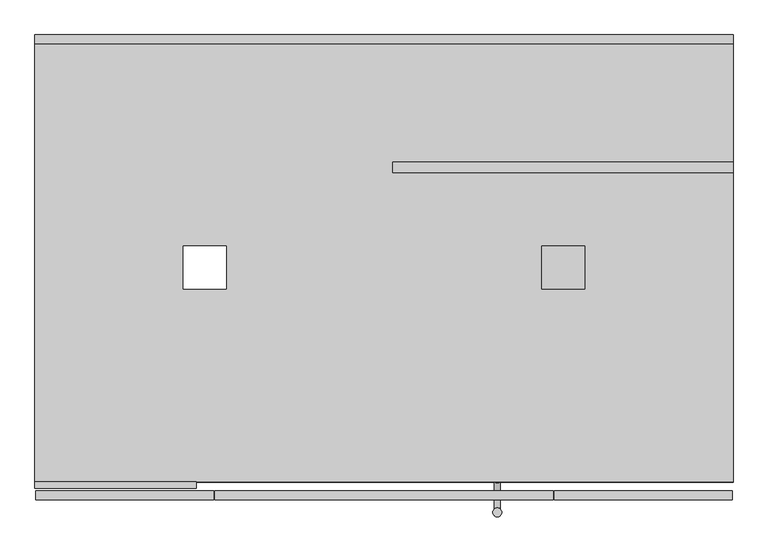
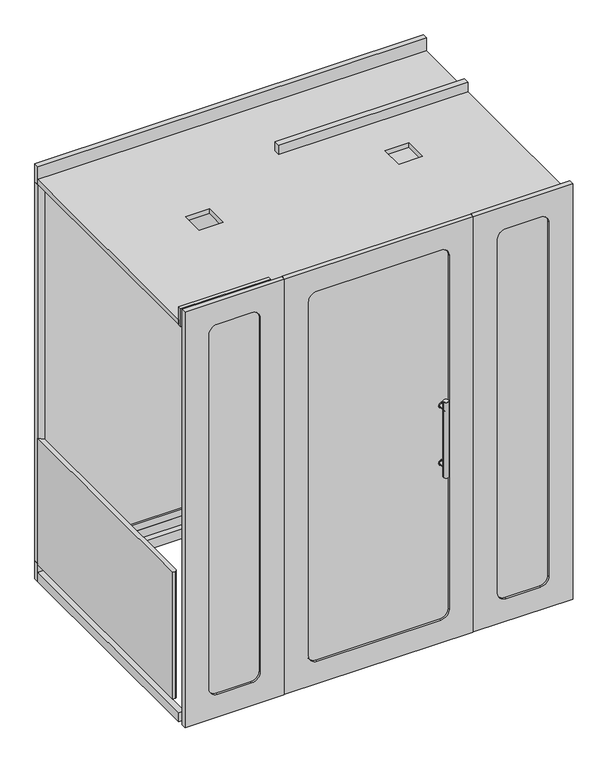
"""IFC4 building model written with IfcOpenShell, lengths in millimetres: furniture geometry, Mobiliário_Mobiliário de Escritório_Cabine Acústica 02 Pessoas - CT 02 PM FV_Marelli : Mobiliário_Mobiliário de Escritório_Cabine Acústica 02 Pessoas - CT 02 PM FV_Marelli."""

from ifc_helpers import new_model, si_unit, point, frame, frame_2d, origin, place, context, project, spatial, polyline, circle_curve, trimmed, segment, composite_curve, outline, extrude, faceted_brep, source, transform, mapped, element, save
from ifc_brep_helpers import plane_surface, cylinder_surface, advanced_brep


def furniture_7776b8a0(model_context):
    return source(origin(), model_context, "Body", "SolidModel", [
        extrude(outline(composite_curve([segment(polyline([(1925.0, 920.0), (1925.0, 380.0)]), True, "CONTINUOUS"), segment(trimmed(circle_curve(frame_2d((1920.0, 380.0)), 5.0), [point((1925.0, 380.0))], [point((1920.0, 375.0))], False, "CARTESIAN"), True, "CONTINUOUS"), segment(polyline([(1920.0, 375.0), (1865.0, 375.0)]), True, "CONTINUOUS"), segment(trimmed(circle_curve(frame_2d((1865.0, 380.0)), 5.0), [point((1865.0, 375.0))], [point((1860.0, 380.0))], False, "CARTESIAN"), True, "CONTINUOUS"), segment(polyline([(1860.0, 380.0), (1860.0, 920.0)]), True, "CONTINUOUS"), segment(trimmed(circle_curve(frame_2d((1865.0, 920.0)), 5.0), [point((1860.0, 920.0))], [point((1865.0, 925.0))], False, "CARTESIAN"), True, "CONTINUOUS"), segment(polyline([(1865.0, 925.0), (1920.0, 925.0)]), True, "CONTINUOUS"), segment(trimmed(circle_curve(frame_2d((1920.0, 920.0)), 5.0), [point((1920.0, 925.0))], [point((1925.0, 920.0))], False, "CARTESIAN"), True, "CONTINUOUS")], self_intersect=False), holes=[composite_curve([segment(trimmed(circle_curve(frame_2d((1892.5, 725.0)), 3.9), [point((1896.4, 725.0))], [point((1888.6, 725.0))], True, "CARTESIAN"), True, "CONTINUOUS"), segment(polyline([(1888.6, 725.0), (1888.6, 575.0)]), True, "CONTINUOUS"), segment(trimmed(circle_curve(frame_2d((1892.5, 575.0)), 3.9), [point((1888.6, 575.0))], [point((1896.4, 575.0))], True, "CARTESIAN"), True, "CONTINUOUS"), segment(polyline([(1896.4, 575.0), (1896.4, 725.0)]), True, "CONTINUOUS")], self_intersect=False), composite_curve([segment(trimmed(circle_curve(frame_2d((1912.5, 715.0)), 3.9), [point((1916.4, 715.0))], [point((1908.6, 715.0))], True, "CARTESIAN"), True, "CONTINUOUS"), segment(polyline([(1908.6, 715.0), (1908.6, 585.0)]), True, "CONTINUOUS"), segment(trimmed(circle_curve(frame_2d((1912.5, 585.0)), 3.9), [point((1908.6, 585.0))], [point((1916.4, 585.0))], True, "CARTESIAN"), True, "CONTINUOUS"), segment(polyline([(1916.4, 585.0), (1916.4, 715.0)]), True, "CONTINUOUS")], self_intersect=False), composite_curve([segment(polyline([(1868.6, 715.0), (1868.6, 585.0)]), True, "CONTINUOUS"), segment(trimmed(circle_curve(frame_2d((1872.5, 585.0)), 3.9), [point((1868.6, 585.0))], [point((1876.4, 585.0))], True, "CARTESIAN"), True, "CONTINUOUS"), segment(polyline([(1876.4, 585.0), (1876.4, 715.0)]), True, "CONTINUOUS"), segment(trimmed(circle_curve(frame_2d((1872.5, 715.0)), 3.9), [point((1876.4, 715.0))], [point((1868.6, 715.0))], True, "CARTESIAN"), True, "CONTINUOUS")], self_intersect=False), composite_curve([segment(polyline([(1896.4, 755.0), (1896.4, 905.0)]), True, "CONTINUOUS"), segment(trimmed(circle_curve(frame_2d((1892.5, 905.0)), 3.9), [point((1896.4, 905.0))], [point((1888.6, 905.0))], True, "CARTESIAN"), True, "CONTINUOUS"), segment(polyline([(1888.6, 905.0), (1888.6, 755.0)]), True, "CONTINUOUS"), segment(trimmed(circle_curve(frame_2d((1892.5, 755.0)), 3.9), [point((1888.6, 755.0))], [point((1896.4, 755.0))], True, "CARTESIAN"), True, "CONTINUOUS")], self_intersect=False), composite_curve([segment(polyline([(1916.4, 765.0), (1916.4, 895.0)]), True, "CONTINUOUS"), segment(trimmed(circle_curve(frame_2d((1912.5, 895.0)), 3.9), [point((1916.4, 895.0))], [point((1908.6, 895.0))], True, "CARTESIAN"), True, "CONTINUOUS"), segment(polyline([(1908.6, 895.0), (1908.6, 765.0)]), True, "CONTINUOUS"), segment(trimmed(circle_curve(frame_2d((1912.5, 765.0)), 3.9), [point((1908.6, 765.0))], [point((1916.4, 765.0))], True, "CARTESIAN"), True, "CONTINUOUS")], self_intersect=False), composite_curve([segment(trimmed(circle_curve(frame_2d((1872.5, 765.0)), 3.9), [point((1868.6, 765.0))], [point((1876.4, 765.0))], True, "CARTESIAN"), True, "CONTINUOUS"), segment(polyline([(1876.4, 765.0), (1876.4, 895.0)]), True, "CONTINUOUS"), segment(trimmed(circle_curve(frame_2d((1872.5, 895.0)), 3.9), [point((1876.4, 895.0))], [point((1868.6, 895.0))], True, "CARTESIAN"), True, "CONTINUOUS"), segment(polyline([(1868.6, 895.0), (1868.6, 765.0)]), True, "CONTINUOUS")], self_intersect=False), composite_curve([segment(trimmed(circle_curve(frame_2d((1892.5, 545.0)), 3.9), [point((1896.4, 545.0))], [point((1888.6, 545.0))], True, "CARTESIAN"), True, "CONTINUOUS"), segment(polyline([(1888.6, 545.0), (1888.6, 395.0)]), True, "CONTINUOUS"), segment(trimmed(circle_curve(frame_2d((1892.5, 395.0)), 3.9), [point((1888.6, 395.0))], [point((1896.4, 395.0))], True, "CARTESIAN"), True, "CONTINUOUS"), segment(polyline([(1896.4, 395.0), (1896.4, 545.0)]), True, "CONTINUOUS")], self_intersect=False), composite_curve([segment(trimmed(circle_curve(frame_2d((1912.5, 535.0)), 3.9), [point((1916.4, 535.0))], [point((1908.6, 535.0))], True, "CARTESIAN"), True, "CONTINUOUS"), segment(polyline([(1908.6, 535.0), (1908.6, 405.0)]), True, "CONTINUOUS"), segment(trimmed(circle_curve(frame_2d((1912.5, 405.0)), 3.9), [point((1908.6, 405.0))], [point((1916.4, 405.0))], True, "CARTESIAN"), True, "CONTINUOUS"), segment(polyline([(1916.4, 405.0), (1916.4, 535.0)]), True, "CONTINUOUS")], self_intersect=False), composite_curve([segment(polyline([(1868.6, 535.0), (1868.6, 405.0)]), True, "CONTINUOUS"), segment(trimmed(circle_curve(frame_2d((1872.5, 405.0)), 3.9), [point((1868.6, 405.0))], [point((1876.4, 405.0))], True, "CARTESIAN"), True, "CONTINUOUS"), segment(polyline([(1876.4, 405.0), (1876.4, 535.0)]), True, "CONTINUOUS"), segment(trimmed(circle_curve(frame_2d((1872.5, 535.0)), 3.9), [point((1876.4, 535.0))], [point((1868.6, 535.0))], True, "CARTESIAN"), True, "CONTINUOUS")], self_intersect=False)]), frame((0.0, 0.0, 113.5), z_axis=(0.0, 0.0, 1.0), x_axis=(1.0, 0.0, 0.0)), (0.0, 0.0, 1.0), 1.9953278),
        extrude(outline(composite_curve([segment(polyline([(25.0, 102.0), (25.0, 1275.0), (45.5304331, 1254.4695669)]), True, "CONTINUOUS"), segment(trimmed(circle_curve(frame_2d((43.1599032, 1251.4457873)), 3.84222), [point((45.5304331, 1254.4695669))], [point((47.0, 1251.3180705))], False, "CARTESIAN"), True, "CONTINUOUS"), segment(polyline([(47.0, 1251.3180705), (47.0, 113.0)]), True, "CONTINUOUS"), segment(trimmed(circle_curve(frame_2d((36.0, 113.0)), 11.0), [point((47.0, 113.0))], [point((36.0, 102.0))], False, "CARTESIAN"), True, "CONTINUOUS"), segment(polyline([(36.0, 102.0), (25.0, 102.0)]), True, "CONTINUOUS")], self_intersect=False)), frame((0.0, 0.0, 113.5), z_axis=(0.0, 0.0, 1.0), x_axis=(1.0, 0.0, 0.0)), (0.0, 0.0, 1.0), 672.0),
        extrude(outline(composite_curve([segment(polyline([(1252.9978767, 2109.5), (124.0, 2109.5)]), True, "CONTINUOUS"), segment(trimmed(circle_curve(frame_2d((124.0, 2131.5)), 22.0), [point((124.0, 2109.5))], [point((102.0, 2131.5))], False, "CARTESIAN"), True, "CONTINUOUS"), segment(polyline([(102.0, 2131.5), (1252.9978767, 2131.5), (1252.9978767, 2109.5)]), True, "CONTINUOUS")], self_intersect=False)), frame((1317.666, 0.0, 0.0), z_axis=(1.0, 0.0, 0.0), x_axis=(0.0, 1.0, 0.0)), (0.0, 0.0, 1.0), 635.333),
        extrude(outline(composite_curve([segment(polyline([(1443.0368913, 710.0), (1556.9631087, 710.0)]), True, "CONTINUOUS"), segment(trimmed(circle_curve(frame_2d((1556.9631087, 706.9631087)), 3.0368913), [point((1556.9631087, 710.0))], [point((1560.0, 706.9631087))], False, "CARTESIAN"), True, "CONTINUOUS"), segment(polyline([(1560.0, 706.9631087), (1560.0, 593.0368913)]), True, "CONTINUOUS"), segment(trimmed(circle_curve(frame_2d((1556.9631087, 593.0368913)), 3.0368913), [point((1560.0, 593.0368913))], [point((1556.9631087, 590.0))], False, "CARTESIAN"), True, "CONTINUOUS"), segment(polyline([(1556.9631087, 590.0), (1443.0368913, 590.0)]), True, "CONTINUOUS"), segment(trimmed(circle_curve(frame_2d((1443.0368913, 593.0368913)), 3.0368913), [point((1443.0368913, 590.0))], [point((1440.0, 593.0368913))], False, "CARTESIAN"), True, "CONTINUOUS"), segment(polyline([(1440.0, 593.0368913), (1440.0, 706.9631087)]), True, "CONTINUOUS"), segment(trimmed(circle_curve(frame_2d((1443.0368913, 706.9631087)), 3.0368913), [point((1440.0, 706.9631087))], [point((1443.0368913, 710.0))], False, "CARTESIAN"), True, "CONTINUOUS")], self_intersect=False), holes=[composite_curve([segment(trimmed(circle_curve(frame_2d((1500.0, 700.0)), 4.0), [point((1504.0, 700.0))], [point((1496.0, 700.0))], True, "CARTESIAN"), True, "CONTINUOUS"), segment(polyline([(1496.0, 700.0), (1496.0, 600.0)]), True, "CONTINUOUS"), segment(trimmed(circle_curve(frame_2d((1500.0, 600.0)), 4.0), [point((1496.0, 600.0))], [point((1504.0, 600.0))], True, "CARTESIAN"), True, "CONTINUOUS"), segment(polyline([(1504.0, 600.0), (1504.0, 700.0)]), True, "CONTINUOUS")], self_intersect=False), composite_curve([segment(trimmed(circle_curve(frame_2d((1516.0, 690.0)), 4.0), [point((1520.0, 690.0))], [point((1512.0, 690.0))], True, "CARTESIAN"), True, "CONTINUOUS"), segment(polyline([(1512.0, 690.0), (1512.0, 610.0)]), True, "CONTINUOUS"), segment(trimmed(circle_curve(frame_2d((1516.0, 610.0)), 4.0), [point((1512.0, 610.0))], [point((1520.0, 610.0))], True, "CARTESIAN"), True, "CONTINUOUS"), segment(polyline([(1520.0, 610.0), (1520.0, 690.0)]), True, "CONTINUOUS")], self_intersect=False), composite_curve([segment(trimmed(circle_curve(frame_2d((1532.0, 680.0)), 4.0), [point((1536.0, 680.0))], [point((1528.0, 680.0))], True, "CARTESIAN"), True, "CONTINUOUS"), segment(polyline([(1528.0, 680.0), (1528.0, 620.0)]), True, "CONTINUOUS"), segment(trimmed(circle_curve(frame_2d((1532.0, 620.0)), 4.0), [point((1528.0, 620.0))], [point((1536.0, 620.0))], True, "CARTESIAN"), True, "CONTINUOUS"), segment(polyline([(1536.0, 620.0), (1536.0, 680.0)]), True, "CONTINUOUS")], self_intersect=False), composite_curve([segment(trimmed(circle_curve(frame_2d((1548.0, 670.0)), 4.0), [point((1552.0, 670.0))], [point((1544.0, 670.0))], True, "CARTESIAN"), True, "CONTINUOUS"), segment(polyline([(1544.0, 670.0), (1544.0, 630.0)]), True, "CONTINUOUS"), segment(trimmed(circle_curve(frame_2d((1548.0, 630.0)), 4.0), [point((1544.0, 630.0))], [point((1552.0, 630.0))], True, "CARTESIAN"), True, "CONTINUOUS"), segment(polyline([(1552.0, 630.0), (1552.0, 670.0)]), True, "CONTINUOUS")], self_intersect=False), composite_curve([segment(polyline([(1480.0, 690.0), (1480.0, 610.0)]), True, "CONTINUOUS"), segment(trimmed(circle_curve(frame_2d((1484.0, 610.0)), 4.0), [point((1480.0, 610.0))], [point((1488.0, 610.0))], True, "CARTESIAN"), True, "CONTINUOUS"), segment(polyline([(1488.0, 610.0), (1488.0, 690.0)]), True, "CONTINUOUS"), segment(trimmed(circle_curve(frame_2d((1484.0, 690.0)), 4.0), [point((1488.0, 690.0))], [point((1480.0, 690.0))], True, "CARTESIAN"), True, "CONTINUOUS")], self_intersect=False), composite_curve([segment(polyline([(1464.0, 680.0), (1464.0, 620.0)]), True, "CONTINUOUS"), segment(trimmed(circle_curve(frame_2d((1468.0, 620.0)), 4.0), [point((1464.0, 620.0))], [point((1472.0, 620.0))], True, "CARTESIAN"), True, "CONTINUOUS"), segment(polyline([(1472.0, 620.0), (1472.0, 680.0)]), True, "CONTINUOUS"), segment(trimmed(circle_curve(frame_2d((1468.0, 680.0)), 4.0), [point((1472.0, 680.0))], [point((1464.0, 680.0))], True, "CARTESIAN"), True, "CONTINUOUS")], self_intersect=False), composite_curve([segment(polyline([(1448.0, 670.0), (1448.0, 630.0)]), True, "CONTINUOUS"), segment(trimmed(circle_curve(frame_2d((1452.0, 630.0)), 4.0), [point((1448.0, 630.0))], [point((1456.0, 630.0))], True, "CARTESIAN"), True, "CONTINUOUS"), segment(polyline([(1456.0, 630.0), (1456.0, 670.0)]), True, "CONTINUOUS"), segment(trimmed(circle_curve(frame_2d((1452.0, 670.0)), 4.0), [point((1456.0, 670.0))], [point((1448.0, 670.0))], True, "CARTESIAN"), True, "CONTINUOUS")], self_intersect=False)]), frame((0.0, 0.0, 2107.4845827), z_axis=(0.0, 0.0, 1.0), x_axis=(1.0, 0.0, 0.0)), (0.0, 0.0, 1.0), 2.0154173),
        extrude(outline(polyline([(25.0, 50.0), (475.0, 50.0), (475.0, 32.0), (25.0, 32.0), (25.0, 50.0)])), frame((0.0, 0.0, 2128.5), z_axis=(0.0, 0.0, 1.0), x_axis=(1.0, 0.0, 0.0)), (0.0, 0.0, 1.0), 96.0),
        extrude(outline(polyline([(1975.0, 1275.0), (1975.0, 50.0), (25.0, 50.0), (25.0, 1275.0), (1975.0, 1275.0)]), holes=[polyline([(560.0, 710.0), (440.0, 710.0), (440.0, 590.0), (560.0, 590.0), (560.0, 710.0)]), polyline([(1440.0, 710.0), (1440.0, 590.0), (1560.0, 590.0), (1560.0, 710.0), (1440.0, 710.0)])]), frame((0.0, 0.0, 2131.5), z_axis=(0.0, 0.0, 1.0), x_axis=(1.0, 0.0, 0.0)), (0.0, 0.0, 1.0), 25.0),
        extrude(outline(polyline([(25.0, 1275.0), (1975.0, 1275.0), (1975.0, 50.0), (25.0, 50.0), (25.0, 1275.0)]), holes=[polyline([(55.0, 80.0), (985.0, 80.0), (985.0, 1245.0), (55.0, 1245.0), (55.0, 80.0)]), polyline([(1945.0, 1245.0), (1015.0, 1245.0), (1015.0, 80.0), (1945.0, 80.0), (1945.0, 1245.0)])]), frame((0.0, 0.0, 24.5), z_axis=(0.0, 0.0, 1.0), x_axis=(1.0, 0.0, 0.0)), (0.0, 0.0, 1.0), 50.0),
        extrude(outline(composite_curve([segment(polyline([(1252.9978767, 2109.5), (124.0, 2109.5)]), True, "CONTINUOUS"), segment(trimmed(circle_curve(frame_2d((124.0, 2131.5)), 22.0), [point((124.0, 2109.5))], [point((102.0, 2131.5))], False, "CARTESIAN"), True, "CONTINUOUS"), segment(polyline([(102.0, 2131.5), (1252.9978767, 2131.5), (1252.9978767, 2109.5)]), True, "CONTINUOUS")], self_intersect=False)), frame((682.333, 0.0, 0.0), z_axis=(1.0, 0.0, 0.0), x_axis=(0.0, 1.0, 0.0)), (0.0, 0.0, 1.0), 635.333),
        advanced_brep(
        [(1060.0, 926.5, 113.5), (1060.0, 926.5, 114.5), (1060.0, 847.5, 114.5), (1060.0, 847.5, 113.5), (940.0, 926.5, 113.5), (940.0, 847.5, 113.5), (940.0, 847.5, 114.5), (940.0, 926.5, 114.5), (987.5, 909.0, 117.9660049), (1012.5, 909.0, 117.9660049), (1012.5, 865.0, 117.9660049), (987.5, 865.0, 117.9660049), (1012.5, 909.0, 114.5), (987.5, 909.0, 114.5), (987.5, 865.0, 114.5), (1012.5, 865.0, 114.5)],
        [
            (0, 1),
            (1, 2, circle_curve(frame((1060.0, 887.0, -39.025), z_axis=(1.0, 0.0, 0.0), x_axis=(0.0, 1.0, 0.0)), 158.525)),
            (2, 3),
            (3, 0),
            (4, 5),
            (5, 6),
            (6, 7, circle_curve(frame((940.0, 887.0, -39.025), z_axis=(-1.0, 0.0, 0.0), x_axis=(0.0, 1.0, 0.0)), 158.525)),
            (7, 4),
            (0, 4),
            (7, 1),
            (6, 2),
            (8, 9),
            (9, 10, circle_curve(frame((1012.5, 887.0, -39.025), z_axis=(1.0, 0.0, 0.0), x_axis=(0.0, 1.0, 0.0)), 158.525)),
            (10, 11),
            (11, 8, circle_curve(frame((987.5, 887.0, -39.025), z_axis=(-1.0, 0.0, 0.0), x_axis=(0.0, 1.0, 0.0)), 158.525)),
            (5, 3),
            (12, 13),
            (13, 14),
            (14, 15),
            (15, 12),
            (12, 9),
            (8, 13),
            (11, 14),
            (10, 15),
        ],
        [
            plane_surface(frame((1060.0, 926.5, 113.5), z_axis=(1.0, 0.0, 0.0), x_axis=(0.0, 0.0, 1.0))),
            plane_surface(frame((940.0, 926.5, 113.5), z_axis=(-1.0, 0.0, 0.0), x_axis=(0.0, 0.0, -1.0))),
            plane_surface(frame((1060.0, 926.5, 113.5), z_axis=(0.0, 1.0, 0.0), x_axis=(-1.0, 0.0, 0.0))),
            cylinder_surface(frame((940.0, 887.0, -39.025), z_axis=(1.0, 0.0, 0.0), x_axis=(0.0, 1.0, 0.0)), 158.525),
            plane_surface(frame((1060.0, 847.5, 114.5), z_axis=(0.0, -1.0, 0.0), x_axis=(-1.0, 0.0, 0.0))),
            plane_surface(frame((1060.0, 847.5, 113.5), z_axis=(0.0, 0.0, -1.0), x_axis=(-1.0, 0.0, 0.0))),
            plane_surface(frame((987.5, 909.0, 114.5), z_axis=(0.0, 0.0, 1.0), x_axis=(1.0, 0.0, 0.0))),
            plane_surface(frame((1012.5, 909.0, 515.4705653), z_axis=(0.0, -1.0, 0.0), x_axis=(0.0, 0.0, -1.0))),
            plane_surface(frame((987.5, 909.0, 515.4705653), z_axis=(1.0, 0.0, 0.0), x_axis=(0.0, 0.0, -1.0))),
            plane_surface(frame((987.5, 865.0, 515.4705653), z_axis=(0.0, 1.0, 0.0), x_axis=(0.0, 0.0, -1.0))),
            plane_surface(frame((1012.5, 865.0, 515.4705653), z_axis=(-1.0, 0.0, 0.0), x_axis=(0.0, 0.0, -1.0))),
        ],
        [
            (0, [[1, 2, 3, 4]]),
            (1, [[5, 6, 7, 8]]),
            (2, [[-1, 9, -8, 10]]),
            (3, [[-2, -10, -7, 11], [12, 13, 14, 15]]),
            (4, [[-3, -11, -6, 16]]),
            (5, [[-4, -16, -5, -9]]),
            (6, [[17, 18, 19, 20]]),
            (7, [[-17, 21, -12, 22]]),
            (8, [[-18, -22, -15, 23]]),
            (9, [[-19, -23, -14, 24]]),
            (10, [[-20, -24, -13, -21]]),
        ],
    ),
        extrude(outline(polyline([(1012.5, 909.0), (1012.5, 865.0), (987.5, 865.0), (987.5, 909.0), (1012.5, 909.0)]), holes=[composite_curve([segment(polyline([(1008.3402427, 896.6597573), (1001.4623946, 903.5376054)]), True, "CONTINUOUS"), segment(trimmed(circle_curve(frame_2d((1000.0, 902.1779629)), 1.9968039), [point((1001.4623946, 903.5376054))], [point((998.5376054, 903.5376054))], True, "CARTESIAN"), True, "CONTINUOUS"), segment(polyline([(998.5376054, 903.5376054), (991.6597573, 896.6597573)]), True, "CONTINUOUS"), segment(trimmed(circle_curve(frame_2d((992.9968039, 895.1766753)), 1.9968039), [point((991.6597573, 896.6597573))], [point((991.0, 895.1766753))], True, "CARTESIAN"), True, "CONTINUOUS"), segment(polyline([(991.0, 895.1766753), (991.0, 878.8233247)]), True, "CONTINUOUS"), segment(trimmed(circle_curve(frame_2d((992.9968039, 878.8233247)), 1.9968039), [point((991.0, 878.8233247))], [point((991.6597573, 877.3402427))], True, "CARTESIAN"), True, "CONTINUOUS"), segment(polyline([(991.6597573, 877.3402427), (998.5376054, 870.4623946)]), True, "CONTINUOUS"), segment(trimmed(circle_curve(frame_2d((1000.0, 871.8220371)), 1.9968039), [point((998.5376054, 870.4623946))], [point((1001.4623946, 870.4623946))], True, "CARTESIAN"), True, "CONTINUOUS"), segment(polyline([(1001.4623946, 870.4623946), (1008.3402427, 877.3402427)]), True, "CONTINUOUS"), segment(trimmed(circle_curve(frame_2d((1007.0031961, 878.8233247)), 1.9968039), [point((1008.3402427, 877.3402427))], [point((1009.0, 878.8233247))], True, "CARTESIAN"), True, "CONTINUOUS"), segment(polyline([(1009.0, 878.8233247), (1009.0, 895.1766753)]), True, "CONTINUOUS"), segment(trimmed(circle_curve(frame_2d((1007.0031961, 895.1766753)), 1.9968039), [point((1009.0, 895.1766753))], [point((1008.3402427, 896.6597573))], True, "CARTESIAN"), True, "CONTINUOUS")], self_intersect=False)]), frame((0.0, 0.0, 114.5), z_axis=(0.0, 0.0, 1.0), x_axis=(1.0, 0.0, 0.0)), (0.0, 0.0, 1.0), 5.5),
        extrude(outline(composite_curve([segment(polyline([(1975.0, 102.0), (1964.0, 102.0)]), True, "CONTINUOUS"), segment(trimmed(circle_curve(frame_2d((1964.0, 113.0)), 11.0), [point((1964.0, 102.0))], [point((1953.0, 113.0))], False, "CARTESIAN"), True, "CONTINUOUS"), segment(polyline([(1953.0, 113.0), (1953.0, 1249.6361409), (1953.0, 1251.3180705)]), True, "CONTINUOUS"), segment(trimmed(circle_curve(frame_2d((1956.8400968, 1251.4457873)), 3.84222), [point((1953.0, 1251.3180705))], [point((1954.4695669, 1254.4695669))], False, "CARTESIAN"), True, "CONTINUOUS"), segment(polyline([(1954.4695669, 1254.4695669), (1975.0, 1275.0), (1975.0, 102.0)]), True, "CONTINUOUS")], self_intersect=False)), frame((0.0, 0.0, 1459.7), z_axis=(0.0, 0.0, 1.0), x_axis=(1.0, 0.0, 0.0)), (0.0, 0.0, 1.0), 671.8),
        extrude(outline(polyline([(1025.0, 915.0), (1025.0, 945.0), (1975.0, 945.0), (1975.0, 915.0), (1025.0, 915.0)])), frame((0.0, 0.0, 2156.5), z_axis=(0.0, 0.0, 1.0), x_axis=(1.0, 0.0, 0.0)), (0.0, 0.0, 1.0), 50.0),
        extrude(outline(polyline([(2224.5, 1472.5), (2224.5, 527.5), (24.5, 527.5), (24.5, 1472.5), (2224.5, 1472.5)]), holes=[composite_curve([segment(polyline([(187.0, 647.5), (2062.0, 647.5)]), True, "CONTINUOUS"), segment(trimmed(circle_curve(frame_2d((2062.0, 690.0)), 42.5), [point((2062.0, 647.5))], [point((2104.5, 690.0))], True, "CARTESIAN"), True, "CONTINUOUS"), segment(polyline([(2104.5, 690.0), (2104.5, 1310.0)]), True, "CONTINUOUS"), segment(trimmed(circle_curve(frame_2d((2062.0, 1310.0)), 42.5), [point((2104.5, 1310.0))], [point((2062.0, 1352.5))], True, "CARTESIAN"), True, "CONTINUOUS"), segment(polyline([(2062.0, 1352.5), (187.0, 1352.5)]), True, "CONTINUOUS"), segment(trimmed(circle_curve(frame_2d((187.0, 1310.0)), 42.5), [point((187.0, 1352.5))], [point((144.5, 1310.0))], True, "CARTESIAN"), True, "CONTINUOUS"), segment(polyline([(144.5, 1310.0), (144.5, 690.0)]), True, "CONTINUOUS"), segment(trimmed(circle_curve(frame_2d((187.0, 690.0)), 42.5), [point((144.5, 690.0))], [point((187.0, 647.5))], True, "CARTESIAN"), True, "CONTINUOUS")], self_intersect=False)]), frame((0.0, 0.0, 0.0), z_axis=(0.0, 1.0, 0.0), x_axis=(0.0, 0.0, 1.0)), (0.0, 0.0, 1.0), 25.0),
        extrude(outline(composite_curve([segment(polyline([(2062.0, 647.5), (187.0, 647.5)]), True, "CONTINUOUS"), segment(trimmed(circle_curve(frame_2d((187.0, 690.0)), 42.5), [point((187.0, 647.5))], [point((144.5, 690.0))], False, "CARTESIAN"), True, "CONTINUOUS"), segment(polyline([(144.5, 690.0), (144.5, 1310.0)]), True, "CONTINUOUS"), segment(trimmed(circle_curve(frame_2d((187.0, 1310.0)), 42.5), [point((144.5, 1310.0))], [point((187.0, 1352.5))], False, "CARTESIAN"), True, "CONTINUOUS"), segment(polyline([(187.0, 1352.5), (2062.0, 1352.5)]), True, "CONTINUOUS"), segment(trimmed(circle_curve(frame_2d((2062.0, 1310.0)), 42.5), [point((2062.0, 1352.5))], [point((2104.5, 1310.0))], False, "CARTESIAN"), True, "CONTINUOUS"), segment(polyline([(2104.5, 1310.0), (2104.5, 690.0)]), True, "CONTINUOUS"), segment(trimmed(circle_curve(frame_2d((2062.0, 690.0)), 42.5), [point((2104.5, 690.0))], [point((2062.0, 647.5))], False, "CARTESIAN"), True, "CONTINUOUS")], self_intersect=False)), frame((0.0, 9.5, 0.0), z_axis=(0.0, 1.0, 0.0), x_axis=(0.0, 0.0, 1.0)), (0.0, 0.0, 1.0), 6.0),
        extrude(outline(composite_curve([segment(trimmed(circle_curve(frame_2d((1316.5, -34.7)), 12.5), [point((1304.0, -34.7))], [point((1329.0, -34.7))], False, "CARTESIAN"), True, "CONTINUOUS"), segment(trimmed(circle_curve(frame_2d((1316.5, -34.7)), 12.5), [point((1329.0, -34.7))], [point((1304.0, -34.7))], False, "CARTESIAN"), True, "CONTINUOUS")], self_intersect=False)), frame((0.0, 0.0, 924.5), z_axis=(0.0, 0.0, 1.0), x_axis=(1.0, 0.0, 0.0)), (0.0, 0.0, 1.0), 400.0),
        extrude(outline(composite_curve([segment(trimmed(circle_curve(frame_2d((1316.5, 59.7)), 12.5), [point((1304.0, 59.7))], [point((1329.0, 59.7))], False, "CARTESIAN"), True, "CONTINUOUS"), segment(trimmed(circle_curve(frame_2d((1316.5, 59.7)), 12.5), [point((1329.0, 59.7))], [point((1304.0, 59.7))], False, "CARTESIAN"), True, "CONTINUOUS")], self_intersect=False)), frame((0.0, 0.0, 924.5), z_axis=(0.0, 0.0, 1.0), x_axis=(1.0, 0.0, 0.0)), (0.0, 0.0, 1.0), 400.0),
        extrude(outline(composite_curve([segment(trimmed(circle_curve(frame_2d((1276.5, 1316.5)), 8.0), [point((1276.5, 1308.5))], [point((1276.5, 1324.5))], False, "CARTESIAN"), True, "CONTINUOUS"), segment(trimmed(circle_curve(frame_2d((1276.5, 1316.5)), 8.0), [point((1276.5, 1324.5))], [point((1276.5, 1308.5))], False, "CARTESIAN"), True, "CONTINUOUS")], self_intersect=False)), frame((0.0, -34.7, 0.0), z_axis=(0.0, 1.0, 0.0), x_axis=(0.0, 0.0, 1.0)), (0.0, 0.0, 1.0), 41.173743),
        extrude(outline(composite_curve([segment(trimmed(circle_curve(frame_2d((972.5, 1316.5)), 8.0), [point((972.5, 1308.5))], [point((972.5, 1324.5))], False, "CARTESIAN"), True, "CONTINUOUS"), segment(trimmed(circle_curve(frame_2d((972.5, 1316.5)), 8.0), [point((972.5, 1324.5))], [point((972.5, 1308.5))], False, "CARTESIAN"), True, "CONTINUOUS")], self_intersect=False)), frame((0.0, -34.7, 0.0), z_axis=(0.0, 1.0, 0.0), x_axis=(0.0, 0.0, 1.0)), (0.0, 0.0, 1.0), 41.173743),
        extrude(outline(composite_curve([segment(trimmed(circle_curve(frame_2d((1276.5, 1316.5)), 12.5), [point((1276.5, 1304.0))], [point((1276.5, 1329.0))], False, "CARTESIAN"), True, "CONTINUOUS"), segment(trimmed(circle_curve(frame_2d((1276.5, 1316.5)), 12.5), [point((1276.5, 1329.0))], [point((1276.5, 1304.0))], False, "CARTESIAN"), True, "CONTINUOUS")], self_intersect=False)), frame((0.0, 6.473743, 0.0), z_axis=(0.0, 1.0, 0.0), x_axis=(0.0, 0.0, 1.0)), (0.0, 0.0, 1.0), 3.026257),
        extrude(outline(composite_curve([segment(trimmed(circle_curve(frame_2d((972.5, 1316.5)), 12.5), [point((972.5, 1304.0))], [point((972.5, 1329.0))], False, "CARTESIAN"), True, "CONTINUOUS"), segment(trimmed(circle_curve(frame_2d((972.5, 1316.5)), 12.5), [point((972.5, 1329.0))], [point((972.5, 1304.0))], False, "CARTESIAN"), True, "CONTINUOUS")], self_intersect=False)), frame((0.0, 6.473743, 0.0), z_axis=(0.0, 1.0, 0.0), x_axis=(0.0, 0.0, 1.0)), (0.0, 0.0, 1.0), 3.026257),
        extrude(outline(composite_curve([segment(trimmed(circle_curve(frame_2d((1276.5, 1316.5)), 8.0), [point((1276.5, 1308.5))], [point((1276.5, 1324.5))], False, "CARTESIAN"), True, "CONTINUOUS"), segment(trimmed(circle_curve(frame_2d((1276.5, 1316.5)), 8.0), [point((1276.5, 1324.5))], [point((1276.5, 1308.5))], False, "CARTESIAN"), True, "CONTINUOUS")], self_intersect=False)), frame((0.0, 18.526257, 0.0), z_axis=(0.0, 1.0, 0.0), x_axis=(0.0, 0.0, 1.0)), (0.0, 0.0, 1.0), 41.173743),
        extrude(outline(composite_curve([segment(trimmed(circle_curve(frame_2d((972.5, 1316.5)), 8.0), [point((972.5, 1308.5))], [point((972.5, 1324.5))], False, "CARTESIAN"), True, "CONTINUOUS"), segment(trimmed(circle_curve(frame_2d((972.5, 1316.5)), 8.0), [point((972.5, 1324.5))], [point((972.5, 1308.5))], False, "CARTESIAN"), True, "CONTINUOUS")], self_intersect=False)), frame((0.0, 18.526257, 0.0), z_axis=(0.0, 1.0, 0.0), x_axis=(0.0, 0.0, 1.0)), (0.0, 0.0, 1.0), 41.173743),
        extrude(outline(composite_curve([segment(trimmed(circle_curve(frame_2d((1276.5, 1316.5)), 12.5), [point((1276.5, 1304.0))], [point((1276.5, 1329.0))], False, "CARTESIAN"), True, "CONTINUOUS"), segment(trimmed(circle_curve(frame_2d((1276.5, 1316.5)), 12.5), [point((1276.5, 1329.0))], [point((1276.5, 1304.0))], False, "CARTESIAN"), True, "CONTINUOUS")], self_intersect=False)), frame((0.0, 15.5, 0.0), z_axis=(0.0, 1.0, 0.0), x_axis=(0.0, 0.0, 1.0)), (0.0, 0.0, 1.0), 3.026257),
        extrude(outline(composite_curve([segment(trimmed(circle_curve(frame_2d((972.5, 1316.5)), 12.5), [point((972.5, 1304.0))], [point((972.5, 1329.0))], False, "CARTESIAN"), True, "CONTINUOUS"), segment(trimmed(circle_curve(frame_2d((972.5, 1316.5)), 12.5), [point((972.5, 1329.0))], [point((972.5, 1304.0))], False, "CARTESIAN"), True, "CONTINUOUS")], self_intersect=False)), frame((0.0, 15.5, 0.0), z_axis=(0.0, 1.0, 0.0), x_axis=(0.0, 0.0, 1.0)), (0.0, 0.0, 1.0), 3.026257),
        extrude(outline(polyline([(2224.5, 525.0), (2224.5, 27.5), (24.5, 27.5), (24.5, 525.0), (2224.5, 525.0)]), holes=[composite_curve([segment(polyline([(187.0, 147.5), (2062.0, 147.5)]), True, "CONTINUOUS"), segment(trimmed(circle_curve(frame_2d((2062.0, 190.0)), 42.5), [point((2062.0, 147.5))], [point((2104.5, 190.0))], True, "CARTESIAN"), True, "CONTINUOUS"), segment(polyline([(2104.5, 190.0), (2104.5, 362.5)]), True, "CONTINUOUS"), segment(trimmed(circle_curve(frame_2d((2062.0, 362.5)), 42.5), [point((2104.5, 362.5))], [point((2062.0, 405.0))], True, "CARTESIAN"), True, "CONTINUOUS"), segment(polyline([(2062.0, 405.0), (187.0, 405.0)]), True, "CONTINUOUS"), segment(trimmed(circle_curve(frame_2d((187.0, 362.5)), 42.5), [point((187.0, 405.0))], [point((144.5, 362.5))], True, "CARTESIAN"), True, "CONTINUOUS"), segment(polyline([(144.5, 362.5), (144.5, 190.0)]), True, "CONTINUOUS"), segment(trimmed(circle_curve(frame_2d((187.0, 190.0)), 42.5), [point((144.5, 190.0))], [point((187.0, 147.5))], True, "CARTESIAN"), True, "CONTINUOUS")], self_intersect=False)]), frame((0.0, 0.0, 0.0), z_axis=(0.0, 1.0, 0.0), x_axis=(0.0, 0.0, 1.0)), (0.0, 0.0, 1.0), 25.0),
        extrude(outline(composite_curve([segment(polyline([(2062.0, 147.5), (187.0, 147.5)]), True, "CONTINUOUS"), segment(trimmed(circle_curve(frame_2d((187.0, 190.0)), 42.5), [point((187.0, 147.5))], [point((144.5, 190.0))], False, "CARTESIAN"), True, "CONTINUOUS"), segment(polyline([(144.5, 190.0), (144.5, 362.5)]), True, "CONTINUOUS"), segment(trimmed(circle_curve(frame_2d((187.0, 362.5)), 42.5), [point((144.5, 362.5))], [point((187.0, 405.0))], False, "CARTESIAN"), True, "CONTINUOUS"), segment(polyline([(187.0, 405.0), (2062.0, 405.0)]), True, "CONTINUOUS"), segment(trimmed(circle_curve(frame_2d((2062.0, 362.5)), 42.5), [point((2062.0, 405.0))], [point((2104.5, 362.5))], False, "CARTESIAN"), True, "CONTINUOUS"), segment(polyline([(2104.5, 362.5), (2104.5, 190.0)]), True, "CONTINUOUS"), segment(trimmed(circle_curve(frame_2d((2062.0, 190.0)), 42.5), [point((2104.5, 190.0))], [point((2062.0, 147.5))], False, "CARTESIAN"), True, "CONTINUOUS")], self_intersect=False)), frame((0.0, 9.5, 0.0), z_axis=(0.0, 1.0, 0.0), x_axis=(0.0, 0.0, 1.0)), (0.0, 0.0, 1.0), 6.0),
        extrude(outline(polyline([(2224.5, 1475.0), (24.5, 1475.0), (24.5, 1972.5), (2224.5, 1972.5), (2224.5, 1475.0)]), holes=[composite_curve([segment(trimmed(circle_curve(frame_2d((187.0, 1810.0)), 42.5), [point((187.0, 1852.5))], [point((144.5, 1810.0))], True, "CARTESIAN"), True, "CONTINUOUS"), segment(polyline([(144.5, 1810.0), (144.5, 1637.5)]), True, "CONTINUOUS"), segment(trimmed(circle_curve(frame_2d((187.0, 1637.5)), 42.5), [point((144.5, 1637.5))], [point((187.0, 1595.0))], True, "CARTESIAN"), True, "CONTINUOUS"), segment(polyline([(187.0, 1595.0), (2062.0, 1595.0)]), True, "CONTINUOUS"), segment(trimmed(circle_curve(frame_2d((2062.0, 1637.5)), 42.5), [point((2062.0, 1595.0))], [point((2104.5, 1637.5))], True, "CARTESIAN"), True, "CONTINUOUS"), segment(polyline([(2104.5, 1637.5), (2104.5, 1810.0)]), True, "CONTINUOUS"), segment(trimmed(circle_curve(frame_2d((2062.0, 1810.0)), 42.5), [point((2104.5, 1810.0))], [point((2062.0, 1852.5))], True, "CARTESIAN"), True, "CONTINUOUS"), segment(polyline([(2062.0, 1852.5), (187.0, 1852.5)]), True, "CONTINUOUS")], self_intersect=False)]), frame((0.0, 0.0, 0.0), z_axis=(0.0, 1.0, 0.0), x_axis=(0.0, 0.0, 1.0)), (0.0, 0.0, 1.0), 25.0),
        extrude(outline(composite_curve([segment(trimmed(circle_curve(frame_2d((2062.0, 1810.0)), 42.5), [point((2062.0, 1852.5))], [point((2104.5, 1810.0))], False, "CARTESIAN"), True, "CONTINUOUS"), segment(polyline([(2104.5, 1810.0), (2104.5, 1637.5)]), True, "CONTINUOUS"), segment(trimmed(circle_curve(frame_2d((2062.0, 1637.5)), 42.5), [point((2104.5, 1637.5))], [point((2062.0, 1595.0))], False, "CARTESIAN"), True, "CONTINUOUS"), segment(polyline([(2062.0, 1595.0), (187.0, 1595.0)]), True, "CONTINUOUS"), segment(trimmed(circle_curve(frame_2d((187.0, 1637.5)), 42.5), [point((187.0, 1595.0))], [point((144.5, 1637.5))], False, "CARTESIAN"), True, "CONTINUOUS"), segment(polyline([(144.5, 1637.5), (144.5, 1810.0)]), True, "CONTINUOUS"), segment(trimmed(circle_curve(frame_2d((187.0, 1810.0)), 42.5), [point((144.5, 1810.0))], [point((187.0, 1852.5))], False, "CARTESIAN"), True, "CONTINUOUS"), segment(polyline([(187.0, 1852.5), (2062.0, 1852.5)]), True, "CONTINUOUS")], self_intersect=False)), frame((0.0, 9.5, 0.0), z_axis=(0.0, 1.0, 0.0), x_axis=(0.0, 0.0, 1.0)), (0.0, 0.0, 1.0), 6.0),
        extrude(outline(polyline([(25.0, 1300.0), (1975.0, 1300.0), (1975.0, 1275.0), (25.0, 1275.0), (25.0, 1300.0)])), frame((0.0, 0.0, 24.5), z_axis=(0.0, 0.0, 1.0), x_axis=(1.0, 0.0, 0.0)), (0.0, 0.0, 1.0), 96.0),
        extrude(outline(polyline([(25.0, 1300.0), (1975.0, 1300.0), (1975.0, 1275.0), (25.0, 1275.0), (25.0, 1300.0)])), frame((0.0, 0.0, 2128.5), z_axis=(0.0, 0.0, 1.0), x_axis=(1.0, 0.0, 0.0)), (0.0, 0.0, 1.0), 96.0),
        faceted_brep([(61.3, 1284.5, 2092.2), (61.3, 1275.0, 2092.2), (61.3, 1275.0, 156.8), (61.3, 1284.5, 156.8), (53.8, 1290.5, 2099.7), (53.8, 1284.5, 2099.7), (53.8, 1284.5, 149.3), (53.8, 1290.5, 149.3), (61.3, 1300.0, 2092.2), (61.3, 1290.5, 2092.2), (61.3, 1290.5, 156.8), (61.3, 1300.0, 156.8), (25.0, 1275.0, 2128.5), (25.0, 1300.0, 2128.5), (25.0, 1300.0, 120.5), (25.0, 1275.0, 120.5), (1938.7, 1275.0, 156.8), (1938.7, 1284.5, 156.8), (1946.2, 1284.5, 149.3), (1946.2, 1290.5, 149.3), (1938.7, 1290.5, 156.8), (1938.7, 1300.0, 156.8), (1975.0, 1300.0, 120.5), (1975.0, 1275.0, 120.5), (1938.7, 1275.0, 2092.2), (1938.7, 1284.5, 2092.2), (1946.2, 1284.5, 2099.7), (1946.2, 1290.5, 2099.7), (1938.7, 1290.5, 2092.2), (1938.7, 1300.0, 2092.2), (1975.0, 1300.0, 2128.5), (1975.0, 1275.0, 2128.5)], [[[0, 1, 2, 3]], [[4, 5, 6, 7]], [[8, 9, 10, 11]], [[12, 13, 14, 15]], [[3, 2, 16, 17]], [[7, 6, 18, 19]], [[11, 10, 20, 21]], [[15, 14, 22, 23]], [[17, 16, 24, 25]], [[19, 18, 26, 27]], [[21, 20, 28, 29]], [[23, 22, 30, 31]], [[15, 23, 31, 12], [1, 24, 16, 2]], [[25, 24, 1, 0]], [[5, 26, 18, 6], [3, 17, 25, 0]], [[27, 26, 5, 4]], [[7, 19, 27, 4], [9, 28, 20, 10]], [[29, 28, 9, 8]], [[13, 30, 22, 14], [11, 21, 29, 8]], [[31, 30, 13, 12]]]),
        extrude(outline(polyline([(1018.15, 1290.5), (1010.65, 1290.5), (1010.65, 1284.5), (1018.15, 1284.5), (1018.15, 1275.0), (981.85, 1275.0), (981.85, 1284.5), (989.35, 1284.5), (989.35, 1290.5), (981.85, 1290.5), (981.85, 1300.0), (1018.15, 1300.0), (1018.15, 1290.5)])), frame((0.0, 0.0, 156.8), z_axis=(0.0, 0.0, 1.0), x_axis=(1.0, 0.0, 0.0)), (0.0, 0.0, 1.0), 1935.4),
        extrude(outline(polyline([(989.35, 1284.5), (53.8, 1284.5), (53.8, 1290.5), (989.35, 1290.5), (989.35, 1284.5)])), frame((0.0, 0.0, 149.3), z_axis=(0.0, 0.0, 1.0), x_axis=(1.0, 0.0, 0.0)), (0.0, 0.0, 1.0), 1950.4),
        extrude(outline(polyline([(1010.65, 1284.5), (1010.65, 1290.5), (1946.2, 1290.5), (1946.2, 1284.5), (1010.65, 1284.5)])), frame((0.0, 0.0, 149.3), z_axis=(0.0, 0.0, 1.0), x_axis=(1.0, 0.0, 0.0)), (0.0, 0.0, 1.0), 1950.4),
    ])


if __name__ == "__main__":
    model = new_model("IFC4")
    model_context = context("Model", 3, world=origin())
    ifc_project = project(units=[si_unit("LENGTHUNIT", "METRE", prefix="MILLI")], contexts=[model_context])
    site = spatial("IfcSite", under=ifc_project)
    building = spatial("IfcBuilding", under=site)
    placement = place(None, origin())
    furniture_shape = furniture_7776b8a0(model_context)
    element("IfcFurniture", 1, ObjectType="Mobiliário_Mobiliário de Escritório_Cabine Acústica 02 Pessoas - CT 02 PM FV_Marelli : Mobiliário_Mobiliário de Escritório_Cabine Acústica 02 Pessoas - CT 02 PM FV_Marelli", at=placement, inside=building, context=model_context, shape_type="MappedRepresentation", body=[
        mapped(furniture_shape, transform((0.0, 0.0, 0.0), x_axis=(1.0, 0.0, 0.0), y_axis=(0.0, 1.0, 0.0), z_axis=(0.0, 0.0, 1.0))),
    ])
    save(model, "model.ifc")
